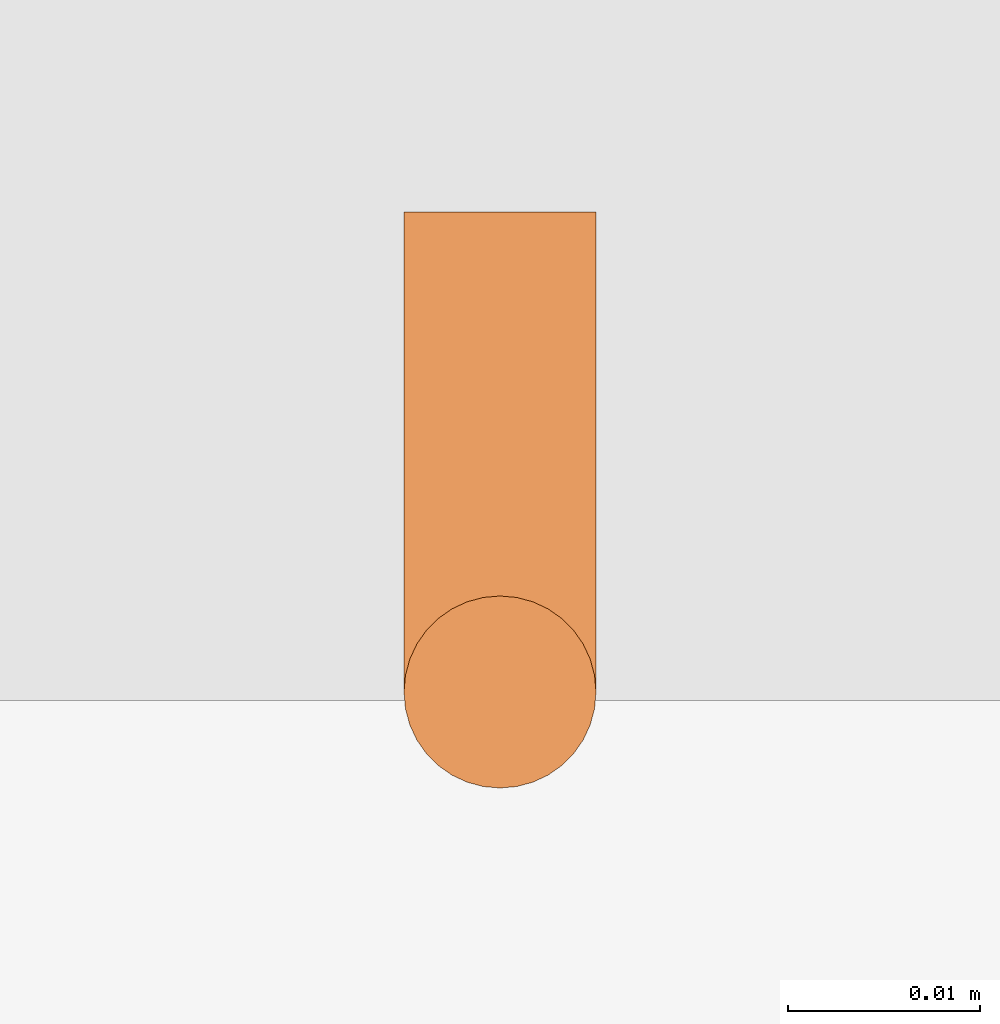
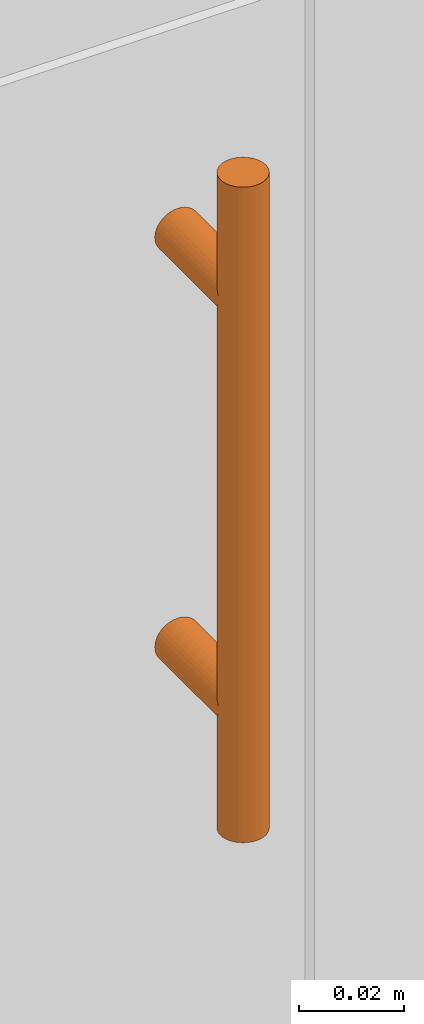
# One storey, part 75 of 77: 1 proxy.
"""IFC2X3 building model written with IfcOpenShell, lengths in inches."""

from ifc_helpers import new_model, entity, si_unit, converted_unit, derived_unit, money_unit, direction, frame, origin_with_axes, place, context, subcontext, project, spatial, faceted_brep, type_object, element, save


model = new_model("IFC2X3")

# Units and contexts
model_context = context("Model", 3, precision=0.000393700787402, world=origin_with_axes(), true_north=direction((0.0, 1.0)))
body_context = subcontext(model_context, "Body", "Model", "MODEL_VIEW")
ifc_project = project(units=[converted_unit("LENGTHUNIT", "INCH", entity("IfcPositiveLengthMeasure", 0.0254), si_unit("LENGTHUNIT", "METRE"), dimensions=[1, 0, 0, 0, 0, 0, 0]), converted_unit("AREAUNIT", "SQUARE_FOOT", entity("IfcPositiveLengthMeasure", 0.09290304), si_unit("AREAUNIT", "SQUARE_METRE"), dimensions=[2, 0, 0, 0, 0, 0, 0]), si_unit("PLANEANGLEUNIT", "RADIAN"), si_unit("SOLIDANGLEUNIT", "STERADIAN"), money_unit("USD"), converted_unit("TIMEUNIT", "Year", entity("IfcTimeMeasure", 31556926.0), si_unit("TIMEUNIT", "SECOND"), dimensions=[0, 0, 1, 0, 0, 0, 0]), si_unit("MASSUNIT", "GRAM", prefix="KILO"), si_unit("THERMODYNAMICTEMPERATUREUNIT", "DEGREE_CELSIUS"), si_unit("LUMINOUSINTENSITYUNIT", "LUMEN"), si_unit("ENERGYUNIT", "JOULE", prefix="MEGA"), derived_unit("THERMALCONDUCTANCEUNIT", [(si_unit("POWERUNIT", "WATT"), 1), (si_unit("LENGTHUNIT", "METRE"), -1), (si_unit("THERMODYNAMICTEMPERATUREUNIT", "KELVIN"), -1)]), derived_unit("SPECIFICHEATCAPACITYUNIT", [(si_unit("ENERGYUNIT", "JOULE"), 1), (si_unit("MASSUNIT", "GRAM", prefix="KILO"), -1), (si_unit("THERMODYNAMICTEMPERATUREUNIT", "KELVIN"), -1)]), derived_unit("MASSDENSITYUNIT", [(si_unit("MASSUNIT", "GRAM", prefix="KILO"), 1), (si_unit("VOLUMEUNIT", "CUBIC_METRE"), -1)])], contexts=[model_context])

# Site, building, storey
site_placement = place(None, origin_with_axes())
site = spatial("IfcSite", under=ifc_project, at=site_placement, Name="Site", CompositionType="ELEMENT")
building_placement = place(site_placement, origin_with_axes())
building = spatial("IfcBuilding", under=site, at=building_placement, Name="Building", CompositionType="ELEMENT")
storey_placement = place(building_placement, frame((0.0, 0.0, 127.952755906), z_axis=(0.0, 0.0, 1.0), x_axis=(1.0, 0.0, 0.0)))
storey = spatial("IfcBuildingStorey", under=building, at=storey_placement, Name="Second Floor", CompositionType="ELEMENT", Elevation=127.953)

# Proxy
building_element_proxy_type = type_object("IfcBuildingElementProxyType", Name="MISSING", PredefinedType="NOTDEFINED")
proxy_placement = place(storey_placement, frame((650.585782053, 581.016470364, 1.28152918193), z_axis=(0.0, 0.0, 1.0), x_axis=(1.0, 0.0, 0.0)))
element("IfcBuildingElementProxy", 1, at=proxy_placement, inside=storey, type_object=building_element_proxy_type, Name="FU - 007", context=body_context, shape_type="Brep", body=[
    faceted_brep([(16.081767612, -24.9842519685, 22.6677421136), (16.081767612, -24.9842519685, 21.5427421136), (16.0847582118, -25.0184346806, 21.5427421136), (16.0847582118, -25.0184346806, 27.5427421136), (16.081767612, -24.9842519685, 27.5427421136), (16.081767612, -24.9842519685, 26.4177421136), (16.0847582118, -24.9500692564, 27.5427421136), (16.0847582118, -24.9500692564, 26.4519248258), (16.0847582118, -24.9500692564, 26.3835594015), (16.0847582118, -24.9500692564, 22.7019248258), (16.0847582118, -24.9500692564, 22.6335594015), (16.0847582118, -24.9500692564, 21.5427421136), (16.0936391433, -24.9169251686, 21.5427421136), (16.108140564, -24.8858267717, 21.5427421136), (16.1278218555, -24.8577189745, 21.5427421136), (16.1520850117, -24.8334558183, 21.5427421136), (16.1801928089, -24.8137745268, 21.5427421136), (16.2112912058, -24.7992731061, 21.5427421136), (16.2444352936, -24.7903921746, 21.5427421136), (16.2786180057, -24.7874015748, 21.5427421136), (16.3128007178, -24.7903921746, 21.5427421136), (16.3459448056, -24.7992731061, 21.5427421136), (16.3770432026, -24.8137745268, 21.5427421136), (16.4051509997, -24.8334558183, 21.5427421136), (16.4294141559, -24.8577189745, 21.5427421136), (16.4490954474, -24.8858267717, 21.5427421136), (16.4635968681, -24.9169251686, 21.5427421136), (16.4724777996, -24.9500692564, 21.5427421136), (16.4754683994, -24.9842519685, 21.5427421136), (16.4724777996, -25.0184346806, 21.5427421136), (16.4635968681, -25.0515787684, 21.5427421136), (16.4490954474, -25.0826771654, 21.5427421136), (16.4294141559, -25.1107849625, 21.5427421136), (16.4051509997, -25.1350481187, 21.5427421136), (16.3770432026, -25.1547294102, 21.5427421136), (16.3459448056, -25.1692308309, 21.5427421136), (16.3128007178, -25.1781117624, 21.5427421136), (16.2786180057, -25.1811023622, 21.5427421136), (16.2444352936, -25.1781117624, 21.5427421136), (16.2112912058, -25.1692308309, 21.5427421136), (16.1801928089, -25.1547294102, 21.5427421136), (16.1520850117, -25.1350481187, 21.5427421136), (16.1278218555, -25.1107849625, 21.5427421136), (16.108140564, -25.0826771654, 21.5427421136), (16.0936391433, -25.0515787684, 21.5427421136), (16.0936391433, -25.0515787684, 27.5427421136), (16.108140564, -25.0826771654, 27.5427421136), (16.1278218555, -25.1107849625, 27.5427421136), (16.1520850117, -25.1350481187, 27.5427421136), (16.1801928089, -25.1547294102, 27.5427421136), (16.2112912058, -25.1692308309, 27.5427421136), (16.2444352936, -25.1781117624, 27.5427421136), (16.2786180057, -25.1811023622, 27.5427421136), (16.3128007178, -25.1781117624, 27.5427421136), (16.3459448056, -25.1692308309, 27.5427421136), (16.3770432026, -25.1547294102, 27.5427421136), (16.4051509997, -25.1350481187, 27.5427421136), (16.4294141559, -25.1107849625, 27.5427421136), (16.4490954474, -25.0826771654, 27.5427421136), (16.4635968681, -25.0515787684, 27.5427421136), (16.4724777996, -25.0184346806, 27.5427421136), (16.4754683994, -24.9842519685, 27.5427421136), (16.4724777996, -24.9500692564, 27.5427421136), (16.4635968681, -24.9169251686, 27.5427421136), (16.4490954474, -24.8858267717, 27.5427421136), (16.4294141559, -24.8577189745, 27.5427421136), (16.4051509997, -24.8334558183, 27.5427421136), (16.3770432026, -24.8137745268, 27.5427421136), (16.3459448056, -24.7992731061, 27.5427421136), (16.3128007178, -24.7903921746, 27.5427421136), (16.2786180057, -24.7874015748, 27.5427421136), (16.2444352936, -24.7903921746, 27.5427421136), (16.2112912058, -24.7992731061, 27.5427421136), (16.1801928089, -24.8137745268, 27.5427421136), (16.1520850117, -24.8334558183, 27.5427421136), (16.1278218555, -24.8577189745, 27.5427421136), (16.108140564, -24.8858267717, 27.5427421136), (16.0936391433, -24.9169251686, 27.5427421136), (16.0936391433, -24.9169251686, 26.4850689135), (16.0936391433, -24.9169251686, 26.3504153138), (16.0936391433, -24.9169251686, 22.7350689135), (16.0936391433, -24.9169251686, 22.6004153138), (16.108140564, -24.8858267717, 26.5161673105), (16.108140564, -24.8858267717, 26.3193169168), (16.108140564, -24.8858267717, 22.7661673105), (16.108140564, -24.8858267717, 22.5693169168), (16.1278218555, -24.8577189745, 26.5442751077), (16.1278218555, -24.8577189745, 26.2912091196), (16.1278218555, -24.8577189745, 22.7942751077), (16.1278218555, -24.8577189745, 22.5412091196), (16.1520850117, -24.8334558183, 26.5685382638), (16.1520850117, -24.8334558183, 26.2669459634), (16.1520850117, -24.8334558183, 22.8185382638), (16.1520850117, -24.8334558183, 22.5169459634), (16.1801928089, -24.8137745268, 26.5882195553), (16.1801928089, -24.8137745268, 26.2472646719), (16.1801928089, -24.8137745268, 22.8382195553), (16.1801928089, -24.8137745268, 22.4972646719), (16.2112912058, -24.7992731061, 26.602720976), (16.2112912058, -24.7992731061, 26.2327632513), (16.2112912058, -24.7992731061, 22.852720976), (16.2112912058, -24.7992731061, 22.4827632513), (16.2444352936, -24.7903921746, 26.6116019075), (16.2444352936, -24.7903921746, 26.2238823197), (16.2444352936, -24.7903921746, 22.8616019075), (16.2444352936, -24.7903921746, 22.4738823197), (16.2786180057, -24.7874015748, 26.6145925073), (16.2786180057, -24.7874015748, 26.2208917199), (16.2786180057, -24.7874015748, 22.8645925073), (16.2786180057, -24.7874015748, 22.4708917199), (16.3128007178, -24.7903921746, 26.6116019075), (16.3128007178, -24.7903921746, 26.2238823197), (16.3128007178, -24.7903921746, 22.8616019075), (16.3128007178, -24.7903921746, 22.4738823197), (16.3459448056, -24.7992731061, 26.602720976), (16.3459448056, -24.7992731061, 26.2327632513), (16.3459448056, -24.7992731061, 22.852720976), (16.3459448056, -24.7992731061, 22.4827632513), (16.3770432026, -24.8137745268, 26.5882195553), (16.3770432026, -24.8137745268, 26.2472646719), (16.3770432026, -24.8137745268, 22.8382195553), (16.3770432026, -24.8137745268, 22.4972646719), (16.4051509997, -24.8334558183, 22.5169459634), (16.4051509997, -24.8334558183, 26.5685382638), (16.4051509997, -24.8334558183, 26.2669459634), (16.4051509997, -24.8334558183, 22.8185382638), (16.4294141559, -24.8577189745, 26.5442751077), (16.4294141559, -24.8577189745, 26.2912091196), (16.4294141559, -24.8577189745, 22.7942751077), (16.4294141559, -24.8577189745, 22.5412091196), (16.4490954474, -24.8858267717, 26.5161673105), (16.4490954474, -24.8858267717, 26.3193169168), (16.4490954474, -24.8858267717, 22.7661673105), (16.4490954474, -24.8858267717, 22.5693169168), (16.4635968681, -24.9169251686, 26.4850689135), (16.4635968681, -24.9169251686, 26.3504153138), (16.4635968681, -24.9169251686, 22.7350689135), (16.4635968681, -24.9169251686, 22.6004153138), (16.4724777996, -24.9500692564, 22.6335594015), (16.4724777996, -24.9500692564, 26.4519248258), (16.4724777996, -24.9500692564, 26.3835594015), (16.4724777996, -24.9500692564, 22.7019248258), (16.4754683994, -24.9842519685, 26.4177421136), (16.4754683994, -24.9842519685, 22.6677421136)], [[[0, 1, 2, 3, 4, 5]], [[1, 0, 5, 4, 6, 7, 8, 9, 10, 11]], [[1, 11, 12, 13, 14, 15, 16, 17, 18, 19, 20, 21, 22, 23, 24, 25, 26, 27, 28, 29, 30, 31, 32, 33, 34, 35, 36, 37, 38, 39, 40, 41, 42, 43, 44, 2]], [[2, 44, 45, 3]], [[4, 3, 45, 46, 47, 48, 49, 50, 51, 52, 53, 54, 55, 56, 57, 58, 59, 60, 61, 62, 63, 64, 65, 66, 67, 68, 69, 70, 71, 72, 73, 74, 75, 76, 77, 6]], [[11, 10, 9, 8, 7, 6, 77, 78, 79, 80, 81, 12]], [[12, 81, 80, 79, 78, 77, 76, 82, 83, 84, 85, 13]], [[14, 13, 85, 84, 83, 82, 76, 75, 86, 87, 88, 89]], [[14, 89, 88, 87, 86, 75, 74, 90, 91, 92, 93, 15]], [[15, 93, 92, 91, 90, 74, 73, 94, 95, 96, 97, 16]], [[17, 16, 97, 96, 95, 94, 73, 72, 98, 99, 100, 101]], [[17, 101, 100, 99, 98, 72, 71, 102, 103, 104, 105, 18]], [[18, 105, 104, 103, 102, 71, 70, 106, 107, 108, 109, 19]], [[19, 109, 108, 107, 106, 70, 69, 110, 111, 112, 113, 20]], [[20, 113, 112, 111, 110, 69, 68, 114, 115, 116, 117, 21]], [[22, 21, 117, 116, 115, 114, 68, 67, 118, 119, 120, 121]], [[122, 23, 22, 121, 120, 119, 118, 67, 66, 123, 124, 125]], [[23, 122, 125, 124, 123, 66, 65, 126, 127, 128, 129, 24]], [[25, 24, 129, 128, 127, 126, 65, 64, 130, 131, 132, 133]], [[26, 25, 133, 132, 131, 130, 64, 63, 134, 135, 136, 137]], [[138, 27, 26, 137, 136, 135, 134, 63, 62, 139, 140, 141]], [[28, 27, 138, 141, 140, 139, 62, 61, 142, 143]], [[29, 28, 143, 142, 61, 60]], [[30, 29, 60, 59]], [[31, 30, 59, 58]], [[32, 31, 58, 57]], [[56, 33, 32, 57]], [[34, 33, 56, 55]], [[35, 34, 55, 54]], [[36, 35, 54, 53]], [[37, 36, 53, 52]], [[38, 37, 52, 51]], [[39, 38, 51, 50]], [[40, 39, 50, 49]], [[41, 40, 49, 48]], [[47, 42, 41, 48]], [[43, 42, 47, 46]], [[44, 43, 46, 45]]]),
    faceted_brep([(16.0847582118, -24.9842519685, 22.6335594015), (16.081767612, -24.9842519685, 22.6677421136), (16.081767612, -24.0, 22.6677421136), (16.0847582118, -24.0, 22.6335594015), (16.0847582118, -24.9500692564, 22.6335594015), (16.0936391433, -24.9842519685, 22.6004153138), (16.108140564, -24.9842519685, 22.5693169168), (16.1278218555, -24.9842519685, 22.5412091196), (16.1520850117, -24.9842519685, 22.5169459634), (16.1801928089, -24.9842519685, 22.4972646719), (16.2112912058, -24.9842519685, 22.4827632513), (16.2444352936, -24.9842519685, 22.4738823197), (16.2786180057, -24.9842519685, 22.4708917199), (16.3128007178, -24.9842519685, 22.4738823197), (16.3459448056, -24.9842519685, 22.4827632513), (16.3770432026, -24.9842519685, 22.4972646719), (16.4051509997, -24.9842519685, 22.5169459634), (16.4294141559, -24.9842519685, 22.5412091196), (16.4490954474, -24.9842519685, 22.5693169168), (16.4635968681, -24.9842519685, 22.6004153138), (16.4724777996, -24.9842519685, 22.6335594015), (16.4754683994, -24.9842519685, 22.6677421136), (16.4724777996, -24.9842519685, 22.7019248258), (16.4635968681, -24.9842519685, 22.7350689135), (16.4490954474, -24.9842519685, 22.7661673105), (16.4294141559, -24.9842519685, 22.7942751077), (16.4051509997, -24.9842519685, 22.8185382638), (16.3770432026, -24.9842519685, 22.8382195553), (16.3459448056, -24.9842519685, 22.852720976), (16.3128007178, -24.9842519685, 22.8616019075), (16.2786180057, -24.9842519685, 22.8645925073), (16.2444352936, -24.9842519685, 22.8616019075), (16.2112912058, -24.9842519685, 22.852720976), (16.1801928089, -24.9842519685, 22.8382195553), (16.1520850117, -24.9842519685, 22.8185382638), (16.1278218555, -24.9842519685, 22.7942751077), (16.108140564, -24.9842519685, 22.7661673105), (16.0936391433, -24.9842519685, 22.7350689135), (16.0847582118, -24.9842519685, 22.7019248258), (16.0847582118, -24.9500692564, 22.7019248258), (16.0847582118, -24.0, 22.7019248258), (16.0936391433, -24.0, 22.6004153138), (16.0936391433, -24.0, 22.7350689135), (16.108140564, -24.0, 22.7661673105), (16.1278218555, -24.0, 22.7942751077), (16.1520850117, -24.0, 22.8185382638), (16.1801928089, -24.0, 22.8382195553), (16.2112912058, -24.0, 22.852720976), (16.2444352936, -24.0, 22.8616019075), (16.2786180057, -24.0, 22.8645925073), (16.3128007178, -24.0, 22.8616019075), (16.3459448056, -24.0, 22.852720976), (16.3770432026, -24.0, 22.8382195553), (16.4051509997, -24.0, 22.8185382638), (16.4294141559, -24.0, 22.7942751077), (16.4490954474, -24.0, 22.7661673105), (16.4635968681, -24.0, 22.7350689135), (16.4724777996, -24.0, 22.7019248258), (16.4754683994, -24.0, 22.6677421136), (16.4724777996, -24.0, 22.6335594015), (16.4635968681, -24.0, 22.6004153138), (16.4490954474, -24.0, 22.5693169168), (16.4294141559, -24.0, 22.5412091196), (16.4051509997, -24.0, 22.5169459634), (16.3770432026, -24.0, 22.4972646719), (16.3459448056, -24.0, 22.4827632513), (16.3128007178, -24.0, 22.4738823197), (16.2786180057, -24.0, 22.4708917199), (16.2444352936, -24.0, 22.4738823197), (16.2112912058, -24.0, 22.4827632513), (16.1801928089, -24.0, 22.4972646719), (16.1520850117, -24.0, 22.5169459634), (16.1278218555, -24.0, 22.5412091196), (16.108140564, -24.0, 22.5693169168), (16.0936391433, -24.9169251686, 22.6004153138), (16.108140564, -24.8858267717, 22.5693169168), (16.1278218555, -24.8577189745, 22.5412091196), (16.1520850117, -24.8334558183, 22.5169459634), (16.1801928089, -24.8137745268, 22.4972646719), (16.2112912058, -24.7992731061, 22.4827632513), (16.2444352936, -24.7903921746, 22.4738823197), (16.2786180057, -24.7874015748, 22.4708917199), (16.3128007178, -24.7903921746, 22.4738823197), (16.3459448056, -24.7992731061, 22.4827632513), (16.3770432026, -24.8137745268, 22.4972646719), (16.4051509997, -24.8334558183, 22.5169459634), (16.4294141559, -24.8577189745, 22.5412091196), (16.4490954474, -24.8858267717, 22.5693169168), (16.4635968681, -24.9169251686, 22.6004153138), (16.4724777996, -24.9500692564, 22.6335594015), (16.4724777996, -24.9500692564, 22.7019248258), (16.4635968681, -24.9169251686, 22.7350689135), (16.4490954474, -24.8858267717, 22.7661673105), (16.4294141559, -24.8577189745, 22.7942751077), (16.4051509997, -24.8334558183, 22.8185382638), (16.3770432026, -24.8137745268, 22.8382195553), (16.3459448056, -24.7992731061, 22.852720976), (16.3128007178, -24.7903921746, 22.8616019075), (16.2786180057, -24.7874015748, 22.8645925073), (16.2444352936, -24.7903921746, 22.8616019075), (16.2112912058, -24.7992731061, 22.852720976), (16.1801928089, -24.8137745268, 22.8382195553), (16.1520850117, -24.8334558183, 22.8185382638), (16.1278218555, -24.8577189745, 22.7942751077), (16.108140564, -24.8858267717, 22.7661673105), (16.0936391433, -24.9169251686, 22.7350689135)], [[[0, 1, 2, 3, 4]], [[1, 0, 5, 6, 7, 8, 9, 10, 11, 12, 13, 14, 15, 16, 17, 18, 19, 20, 21, 22, 23, 24, 25, 26, 27, 28, 29, 30, 31, 32, 33, 34, 35, 36, 37, 38]], [[1, 38, 39, 40, 2]], [[41, 3, 2, 40, 42, 43, 44, 45, 46, 47, 48, 49, 50, 51, 52, 53, 54, 55, 56, 57, 58, 59, 60, 61, 62, 63, 64, 65, 66, 67, 68, 69, 70, 71, 72, 73]], [[5, 0, 4, 3, 41, 74]], [[6, 5, 74, 41, 73, 75]], [[7, 6, 75, 73, 72, 76]], [[7, 76, 72, 71, 77, 8]], [[77, 71, 70, 78, 9, 8]], [[10, 9, 78, 70, 69, 79]], [[11, 10, 79, 69, 68, 80]], [[12, 11, 80, 68, 67, 81]], [[12, 81, 67, 66, 82, 13]], [[14, 13, 82, 66, 65, 83]], [[15, 14, 83, 65, 64, 84]], [[16, 15, 84, 64, 63, 85]], [[16, 85, 63, 62, 86, 17]], [[18, 17, 86, 62, 61, 87]], [[19, 18, 87, 61, 60, 88]], [[20, 19, 88, 60, 59, 89]], [[21, 20, 89, 59, 58]], [[22, 21, 58, 57, 90]], [[23, 22, 90, 57, 56, 91]], [[24, 23, 91, 56, 55, 92]], [[25, 24, 92, 55, 54, 93]], [[94, 26, 25, 93, 54, 53]], [[27, 26, 94, 53, 52, 95]], [[28, 27, 95, 52, 51, 96]], [[29, 28, 96, 51, 50, 97]], [[98, 30, 29, 97, 50, 49]], [[31, 30, 98, 49, 48, 99]], [[32, 31, 99, 48, 47, 100]], [[33, 32, 100, 47, 46, 101]], [[34, 33, 101, 46, 45, 102]], [[103, 35, 34, 102, 45, 44]], [[36, 35, 103, 44, 43, 104]], [[37, 36, 104, 43, 42, 105]], [[38, 37, 105, 42, 40, 39]]]),
    faceted_brep([(16.081767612, -24.9842519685, 26.4177421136), (16.0847582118, -24.9842519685, 26.4519248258), (16.0847582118, -24.9500692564, 26.4519248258), (16.0847582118, -24.0, 26.4519248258), (16.081767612, -24.0, 26.4177421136), (16.0847582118, -24.9842519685, 26.3835594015), (16.0936391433, -24.9842519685, 26.3504153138), (16.108140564, -24.9842519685, 26.3193169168), (16.1278218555, -24.9842519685, 26.2912091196), (16.1520850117, -24.9842519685, 26.2669459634), (16.1801928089, -24.9842519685, 26.2472646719), (16.2112912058, -24.9842519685, 26.2327632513), (16.2444352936, -24.9842519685, 26.2238823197), (16.2786180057, -24.9842519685, 26.2208917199), (16.3128007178, -24.9842519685, 26.2238823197), (16.3459448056, -24.9842519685, 26.2327632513), (16.3770432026, -24.9842519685, 26.2472646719), (16.4051509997, -24.9842519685, 26.2669459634), (16.4294141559, -24.9842519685, 26.2912091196), (16.4490954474, -24.9842519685, 26.3193169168), (16.4635968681, -24.9842519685, 26.3504153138), (16.4724777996, -24.9842519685, 26.3835594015), (16.4754683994, -24.9842519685, 26.4177421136), (16.4724777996, -24.9842519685, 26.4519248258), (16.4635968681, -24.9842519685, 26.4850689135), (16.4490954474, -24.9842519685, 26.5161673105), (16.4294141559, -24.9842519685, 26.5442751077), (16.4051509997, -24.9842519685, 26.5685382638), (16.3770432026, -24.9842519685, 26.5882195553), (16.3459448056, -24.9842519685, 26.602720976), (16.3128007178, -24.9842519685, 26.6116019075), (16.2786180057, -24.9842519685, 26.6145925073), (16.2444352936, -24.9842519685, 26.6116019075), (16.2112912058, -24.9842519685, 26.602720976), (16.1801928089, -24.9842519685, 26.5882195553), (16.1520850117, -24.9842519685, 26.5685382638), (16.1278218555, -24.9842519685, 26.5442751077), (16.108140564, -24.9842519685, 26.5161673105), (16.0936391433, -24.9842519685, 26.4850689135), (16.0936391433, -24.9169251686, 26.4850689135), (16.0936391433, -24.0, 26.4850689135), (16.1520850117, -24.0, 26.2669459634), (16.1278218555, -24.0, 26.2912091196), (16.108140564, -24.0, 26.3193169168), (16.0936391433, -24.0, 26.3504153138), (16.0847582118, -24.0, 26.3835594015), (16.108140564, -24.0, 26.5161673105), (16.1278218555, -24.0, 26.5442751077), (16.1520850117, -24.0, 26.5685382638), (16.1801928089, -24.0, 26.5882195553), (16.2112912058, -24.0, 26.602720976), (16.2444352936, -24.0, 26.6116019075), (16.2786180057, -24.0, 26.6145925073), (16.3128007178, -24.0, 26.6116019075), (16.3459448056, -24.0, 26.602720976), (16.3770432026, -24.0, 26.5882195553), (16.4051509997, -24.0, 26.5685382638), (16.4294141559, -24.0, 26.5442751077), (16.4490954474, -24.0, 26.5161673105), (16.4635968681, -24.0, 26.4850689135), (16.4724777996, -24.0, 26.4519248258), (16.4754683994, -24.0, 26.4177421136), (16.4724777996, -24.0, 26.3835594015), (16.4635968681, -24.0, 26.3504153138), (16.4490954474, -24.0, 26.3193169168), (16.4294141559, -24.0, 26.2912091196), (16.4051509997, -24.0, 26.2669459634), (16.3770432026, -24.0, 26.2472646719), (16.3459448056, -24.0, 26.2327632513), (16.3128007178, -24.0, 26.2238823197), (16.2786180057, -24.0, 26.2208917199), (16.2444352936, -24.0, 26.2238823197), (16.2112912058, -24.0, 26.2327632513), (16.1801928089, -24.0, 26.2472646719), (16.0847582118, -24.9500692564, 26.3835594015), (16.0936391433, -24.9169251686, 26.3504153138), (16.108140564, -24.8858267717, 26.3193169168), (16.1278218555, -24.8577189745, 26.2912091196), (16.1520850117, -24.8334558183, 26.2669459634), (16.1801928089, -24.8137745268, 26.2472646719), (16.2112912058, -24.7992731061, 26.2327632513), (16.2444352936, -24.7903921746, 26.2238823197), (16.2786180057, -24.7874015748, 26.2208917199), (16.3128007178, -24.7903921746, 26.2238823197), (16.3459448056, -24.7992731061, 26.2327632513), (16.3770432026, -24.8137745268, 26.2472646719), (16.4051509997, -24.8334558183, 26.2669459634), (16.4294141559, -24.8577189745, 26.2912091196), (16.4490954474, -24.8858267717, 26.3193169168), (16.4635968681, -24.9169251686, 26.3504153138), (16.4724777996, -24.9500692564, 26.3835594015), (16.4724777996, -24.9500692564, 26.4519248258), (16.4635968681, -24.9169251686, 26.4850689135), (16.4490954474, -24.8858267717, 26.5161673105), (16.4294141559, -24.8577189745, 26.5442751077), (16.4051509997, -24.8334558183, 26.5685382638), (16.3770432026, -24.8137745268, 26.5882195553), (16.3459448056, -24.7992731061, 26.602720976), (16.3128007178, -24.7903921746, 26.6116019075), (16.2786180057, -24.7874015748, 26.6145925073), (16.2444352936, -24.7903921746, 26.6116019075), (16.2112912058, -24.7992731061, 26.602720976), (16.1801928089, -24.8137745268, 26.5882195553), (16.1520850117, -24.8334558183, 26.5685382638), (16.1278218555, -24.8577189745, 26.5442751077), (16.108140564, -24.8858267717, 26.5161673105)], [[[0, 1, 2, 3, 4]], [[1, 0, 5, 6, 7, 8, 9, 10, 11, 12, 13, 14, 15, 16, 17, 18, 19, 20, 21, 22, 23, 24, 25, 26, 27, 28, 29, 30, 31, 32, 33, 34, 35, 36, 37, 38]], [[1, 38, 39, 40, 3, 2]], [[41, 42, 43, 44, 45, 4, 3, 40, 46, 47, 48, 49, 50, 51, 52, 53, 54, 55, 56, 57, 58, 59, 60, 61, 62, 63, 64, 65, 66, 67, 68, 69, 70, 71, 72, 73]], [[5, 0, 4, 45, 74]], [[6, 5, 74, 45, 44, 75]], [[7, 6, 75, 44, 43, 76]], [[8, 7, 76, 43, 42, 77]], [[9, 8, 77, 42, 41, 78]], [[10, 9, 78, 41, 73, 79]], [[11, 10, 79, 73, 72, 80]], [[12, 11, 80, 72, 71, 81]], [[13, 12, 81, 71, 70, 82]], [[13, 82, 70, 69, 83, 14]], [[15, 14, 83, 69, 68, 84]], [[16, 15, 84, 68, 67, 85]], [[17, 16, 85, 67, 66, 86]], [[18, 17, 86, 66, 65, 87]], [[19, 18, 87, 65, 64, 88]], [[20, 19, 88, 64, 63, 89]], [[21, 20, 89, 63, 62, 90]], [[22, 21, 90, 62, 61]], [[23, 22, 61, 60, 91]], [[24, 23, 91, 60, 59, 92]], [[25, 24, 92, 59, 58, 93]], [[26, 25, 93, 58, 57, 94]], [[27, 26, 94, 57, 56, 95]], [[28, 27, 95, 56, 55, 96]], [[29, 28, 96, 55, 54, 97]], [[30, 29, 97, 54, 53, 98]], [[31, 30, 98, 53, 52, 99]], [[32, 31, 99, 52, 51, 100]], [[33, 32, 100, 51, 50, 101]], [[34, 33, 101, 50, 49, 102]], [[35, 34, 102, 49, 48, 103]], [[36, 35, 103, 48, 47, 104]], [[37, 36, 104, 47, 46, 105]], [[38, 37, 105, 46, 40, 39]]]),
])

save(model, "model.ifc")
